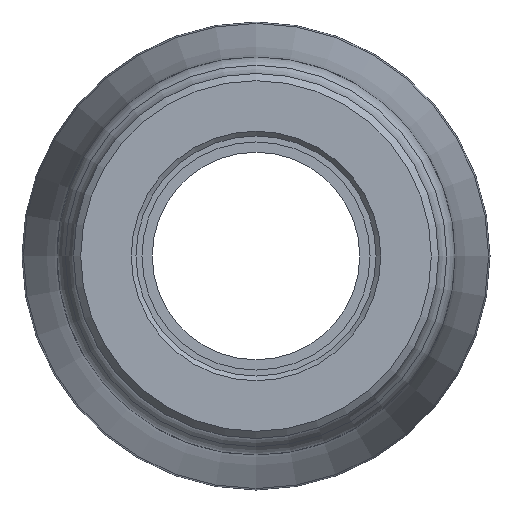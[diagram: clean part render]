
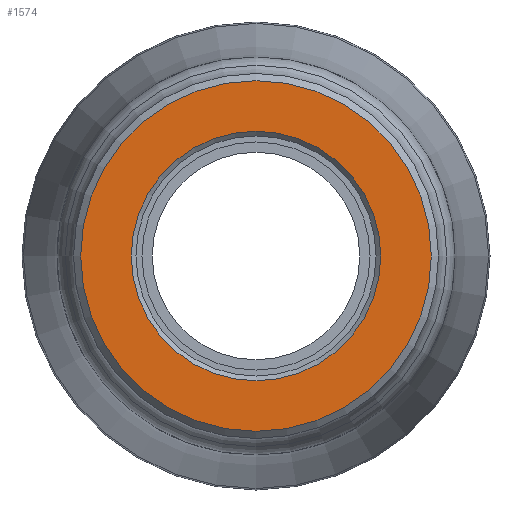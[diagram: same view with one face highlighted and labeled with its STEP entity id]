
A CAD part, left-side view. The second image highlights one B-rep face of the part: STEP entity #1574.
In plain terms, the highlighted planar face has unit normal (-1, 0, 0).
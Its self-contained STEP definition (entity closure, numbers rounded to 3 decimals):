
#24=FACE_BOUND('',#401,.T.);
#56=PLANE('',#1725);
#292=FACE_OUTER_BOUND('',#400,.T.);
#400=EDGE_LOOP('',(#1156));
#401=EDGE_LOOP('',(#1157));
#544=CIRCLE('',#1724,12.529);
#545=CIRCLE('',#1726,17.606);
#715=VERTEX_POINT('',#2764);
#716=VERTEX_POINT('',#2767);
#886=EDGE_CURVE('',#715,#715,#544,.T.);
#887=EDGE_CURVE('',#716,#716,#545,.T.);
#1156=ORIENTED_EDGE('',*,*,#887,.F.);
#1157=ORIENTED_EDGE('',*,*,#886,.F.);
#1574=ADVANCED_FACE('',(#292,#24),#56,.T.);
#1724=AXIS2_PLACEMENT_3D('',#2765,#2005,#2006);
#1725=AXIS2_PLACEMENT_3D('',#2766,#2007,#2008);
#1726=AXIS2_PLACEMENT_3D('',#2768,#2009,#2010);
#2005=DIRECTION('center_axis',(-1.,0.,0.));
#2006=DIRECTION('ref_axis',(0.,-1.,0.));
#2007=DIRECTION('center_axis',(-1.,0.,0.));
#2008=DIRECTION('ref_axis',(0.,0.,1.));
#2009=DIRECTION('center_axis',(1.,0.,0.));
#2010=DIRECTION('ref_axis',(0.,-1.,0.));
#2764=CARTESIAN_POINT('',(0.,12.529,0.));
#2765=CARTESIAN_POINT('Origin',(0.,0.,0.));
#2766=CARTESIAN_POINT('Origin',(0.,18.33,0.));
#2767=CARTESIAN_POINT('',(0.,17.606,0.));
#2768=CARTESIAN_POINT('Origin',(0.,0.,0.));
